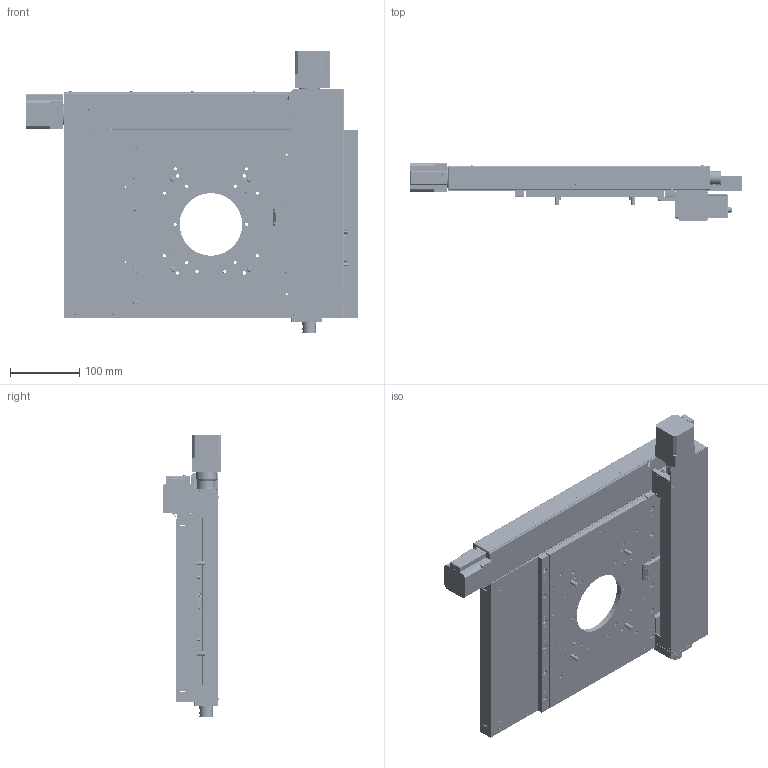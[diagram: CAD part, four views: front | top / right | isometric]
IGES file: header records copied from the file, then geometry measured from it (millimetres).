
Start section: SolidWorks IGES file using analytic representation for surfaces
Global section: file name: C:\1-DATA-FILES-FOR-PROJECTS\2022-PRODUCT-REFERENCE-MODELS\1-STAGE-REFERENCE-MODELS\H116\HE16-2S\2-HE16-2S-REFERENCE-PARTS\H116_2S-REFERENCE-IGES.IGS; native system: SolidWorks 2019; preprocessor: SolidWorks 2019; author: jwilliams; date: 220228.115044; units: inch
Bounding box: 478.5 x 83.17 x 407.5 mm (x, y, z)
Surface area: 953423.7 mm2 (no closed solid volume)
Topology: 0 solids, 0 shells, 5058 faces, 69116 edges, 68914 vertices
Faces by surface type: revolution 2596, bspline 2462
